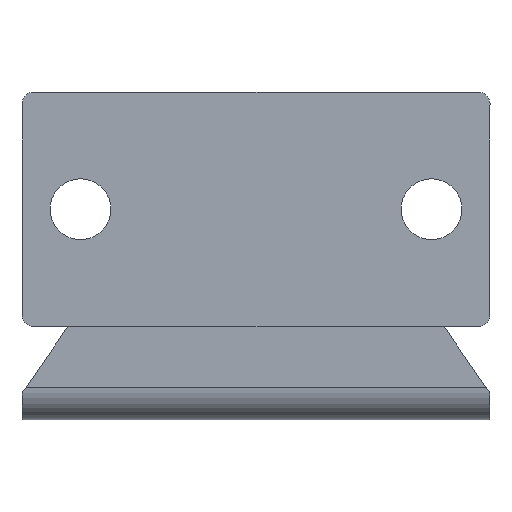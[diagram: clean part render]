
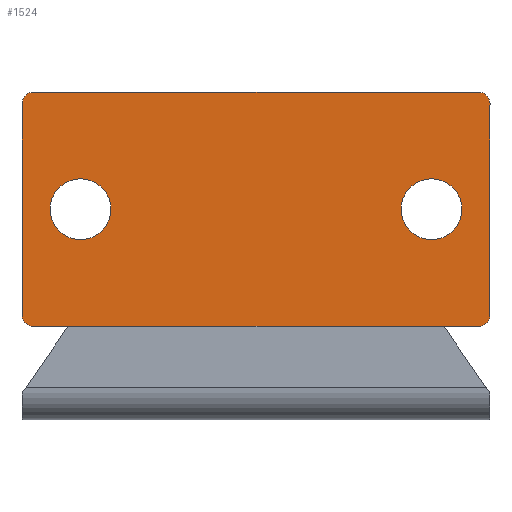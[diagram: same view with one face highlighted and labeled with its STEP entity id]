
A CAD part, left-side view. The second image highlights one B-rep face of the part: STEP entity #1524.
In plain terms, the highlighted planar face has unit normal (-1, 0, 0).
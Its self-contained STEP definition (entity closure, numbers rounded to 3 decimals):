
#8 = CARTESIAN_POINT ( 'NONE',  ( -288.518, -233.979, -9.839 ) ) ;
#20 = DIRECTION ( 'NONE',  ( 0., 1., 0. ) ) ;
#24 = EDGE_CURVE ( 'NONE', #2411, #799, #2379, .T. ) ;
#37 = ORIENTED_EDGE ( 'NONE', *, *, #349, .F. ) ;
#47 = EDGE_CURVE ( 'NONE', #342, #1061, #1392, .T. ) ;
#88 = ORIENTED_EDGE ( 'NONE', *, *, #250, .F. ) ;
#157 = DIRECTION ( 'NONE',  ( 0., 1., 0. ) ) ;
#171 = DIRECTION ( 'NONE',  ( 1., 0., 0. ) ) ;
#184 = CARTESIAN_POINT ( 'NONE',  ( -288.518, -227.379, -18.839 ) ) ;
#245 = AXIS2_PLACEMENT_3D ( 'NONE', #2076, #1854, #2286 ) ;
#250 = EDGE_CURVE ( 'NONE', #799, #1296, #678, .T. ) ;
#270 = AXIS2_PLACEMENT_3D ( 'NONE', #184, #171, #157 ) ;
#273 = CIRCLE ( 'NONE', #1569, 1. ) ;
#342 = VERTEX_POINT ( 'NONE', #711 ) ;
#343 = DIRECTION ( 'NONE',  ( 0., 1., 0. ) ) ;
#349 = EDGE_CURVE ( 'NONE', #705, #544, #1074, .T. ) ;
#386 = LINE ( 'NONE', #2306, #2401 ) ;
#424 = VERTEX_POINT ( 'NONE', #2063 ) ;
#428 = CARTESIAN_POINT ( 'NONE',  ( -288.518, -228.779, -9.839 ) ) ;
#433 = AXIS2_PLACEMENT_3D ( 'NONE', #784, #1332, #2281 ) ;
#445 = AXIS2_PLACEMENT_3D ( 'NONE', #1381, #1789, #2342 ) ;
#448 = DIRECTION ( 'NONE',  ( 1., 0., 0. ) ) ;
#517 = ORIENTED_EDGE ( 'NONE', *, *, #2242, .F. ) ;
#521 = AXIS2_PLACEMENT_3D ( 'NONE', #1289, #2073, #343 ) ;
#544 = VERTEX_POINT ( 'NONE', #2097 ) ;
#571 = EDGE_CURVE ( 'NONE', #926, #342, #1551, .T. ) ;
#583 = VERTEX_POINT ( 'NONE', #428 ) ;
#678 = CIRCLE ( 'NONE', #2150, 1. ) ;
#705 = VERTEX_POINT ( 'NONE', #2187 ) ;
#711 = CARTESIAN_POINT ( 'NONE',  ( -288.518, -226.379, -0.839 ) ) ;
#784 = CARTESIAN_POINT ( 'NONE',  ( -288.518, -227.379, -0.839 ) ) ;
#799 = VERTEX_POINT ( 'NONE', #2438 ) ;
#816 = CARTESIAN_POINT ( 'NONE',  ( -288.518, -265.379, -18.839 ) ) ;
#850 = EDGE_CURVE ( 'NONE', #544, #705, #1585, .T. ) ;
#871 = VECTOR ( 'NONE', #1066, 1000. ) ;
#924 = DIRECTION ( 'NONE',  ( -1., 0., 0. ) ) ;
#926 = VERTEX_POINT ( 'NONE', #1550 ) ;
#940 = CARTESIAN_POINT ( 'NONE',  ( -288.518, -265.379, -19.839 ) ) ;
#955 = VERTEX_POINT ( 'NONE', #8 ) ;
#963 = ORIENTED_EDGE ( 'NONE', *, *, #850, .F. ) ;
#966 = EDGE_CURVE ( 'NONE', #424, #2411, #273, .T. ) ;
#988 = DIRECTION ( 'NONE',  ( 0., 1., 0. ) ) ;
#1003 = DIRECTION ( 'NONE',  ( 0., 1., 0. ) ) ;
#1026 = VECTOR ( 'NONE', #1919, 1000. ) ;
#1043 = EDGE_CURVE ( 'NONE', #955, #583, #2223, .T. ) ;
#1061 = VERTEX_POINT ( 'NONE', #1599 ) ;
#1066 = DIRECTION ( 'NONE',  ( 0., 0., -1. ) ) ;
#1074 = CIRCLE ( 'NONE', #245, 2.6 ) ;
#1108 = ORIENTED_EDGE ( 'NONE', *, *, #1043, .F. ) ;
#1187 = ORIENTED_EDGE ( 'NONE', *, *, #24, .F. ) ;
#1221 = DIRECTION ( 'NONE',  ( -1., 0., 0. ) ) ;
#1289 = CARTESIAN_POINT ( 'NONE',  ( -288.518, -261.379, -9.839 ) ) ;
#1296 = VERTEX_POINT ( 'NONE', #940 ) ;
#1303 = DIRECTION ( 'NONE',  ( 0., 1., 0. ) ) ;
#1332 = DIRECTION ( 'NONE',  ( 1., 0., 0. ) ) ;
#1338 = CARTESIAN_POINT ( 'NONE',  ( -288.518, -226.379, -9.839 ) ) ;
#1381 = CARTESIAN_POINT ( 'NONE',  ( -288.518, -246.379, -9.839 ) ) ;
#1382 = AXIS2_PLACEMENT_3D ( 'NONE', #1708, #924, #1303 ) ;
#1392 = CIRCLE ( 'NONE', #433, 1. ) ;
#1399 = FACE_BOUND ( 'NONE', #1610, .T. ) ;
#1401 = ORIENTED_EDGE ( 'NONE', *, *, #1724, .F. ) ;
#1422 = PLANE ( 'NONE',  #445 ) ;
#1429 = CARTESIAN_POINT ( 'NONE',  ( -288.518, -266.379, -9.839 ) ) ;
#1444 = EDGE_LOOP ( 'NONE', ( #2289, #1961, #517, #88, #1187, #2088, #1401, #2338 ) ) ;
#1494 = CIRCLE ( 'NONE', #1382, 2.6 ) ;
#1524 = ADVANCED_FACE ( 'NONE', ( #2158, #2001, #1399 ), #1422, .F. ) ;
#1550 = CARTESIAN_POINT ( 'NONE',  ( -288.518, -226.379, -18.839 ) ) ;
#1551 = LINE ( 'NONE', #1338, #1026 ) ;
#1569 = AXIS2_PLACEMENT_3D ( 'NONE', #2094, #2296, #20 ) ;
#1585 = CIRCLE ( 'NONE', #521, 2.6 ) ;
#1589 = CARTESIAN_POINT ( 'NONE',  ( -288.518, -231.379, -9.839 ) ) ;
#1599 = CARTESIAN_POINT ( 'NONE',  ( -288.518, -227.379, 0.161 ) ) ;
#1610 = EDGE_LOOP ( 'NONE', ( #963, #37 ) ) ;
#1645 = EDGE_LOOP ( 'NONE', ( #1683, #1108 ) ) ;
#1683 = ORIENTED_EDGE ( 'NONE', *, *, #2082, .F. ) ;
#1708 = CARTESIAN_POINT ( 'NONE',  ( -288.518, -231.379, -9.839 ) ) ;
#1724 = EDGE_CURVE ( 'NONE', #1061, #424, #386, .T. ) ;
#1789 = DIRECTION ( 'NONE',  ( 1., 0., 0. ) ) ;
#1816 = AXIS2_PLACEMENT_3D ( 'NONE', #1589, #1221, #1003 ) ;
#1823 = VECTOR ( 'NONE', #1920, 1000. ) ;
#1854 = DIRECTION ( 'NONE',  ( -1., 0., 0. ) ) ;
#1877 = CARTESIAN_POINT ( 'NONE',  ( -288.518, -227.379, -19.839 ) ) ;
#1904 = DIRECTION ( 'NONE',  ( 0., -1., 0. ) ) ;
#1919 = DIRECTION ( 'NONE',  ( 0., 0., 1. ) ) ;
#1920 = DIRECTION ( 'NONE',  ( 0., 1., 0. ) ) ;
#1948 = LINE ( 'NONE', #1960, #1823 ) ;
#1960 = CARTESIAN_POINT ( 'NONE',  ( -288.518, -246.379, -19.839 ) ) ;
#1961 = ORIENTED_EDGE ( 'NONE', *, *, #2039, .F. ) ;
#1970 = CARTESIAN_POINT ( 'NONE',  ( -288.518, -266.379, -0.839 ) ) ;
#2001 = FACE_BOUND ( 'NONE', #1645, .T. ) ;
#2039 = EDGE_CURVE ( 'NONE', #2071, #926, #2377, .T. ) ;
#2063 = CARTESIAN_POINT ( 'NONE',  ( -288.518, -265.379, 0.161 ) ) ;
#2071 = VERTEX_POINT ( 'NONE', #1877 ) ;
#2073 = DIRECTION ( 'NONE',  ( -1., 0., 0. ) ) ;
#2076 = CARTESIAN_POINT ( 'NONE',  ( -288.518, -261.379, -9.839 ) ) ;
#2082 = EDGE_CURVE ( 'NONE', #583, #955, #1494, .T. ) ;
#2088 = ORIENTED_EDGE ( 'NONE', *, *, #966, .F. ) ;
#2094 = CARTESIAN_POINT ( 'NONE',  ( -288.518, -265.379, -0.839 ) ) ;
#2097 = CARTESIAN_POINT ( 'NONE',  ( -288.518, -258.779, -9.839 ) ) ;
#2150 = AXIS2_PLACEMENT_3D ( 'NONE', #816, #448, #988 ) ;
#2158 = FACE_OUTER_BOUND ( 'NONE', #1444, .T. ) ;
#2187 = CARTESIAN_POINT ( 'NONE',  ( -288.518, -263.979, -9.839 ) ) ;
#2223 = CIRCLE ( 'NONE', #1816, 2.6 ) ;
#2242 = EDGE_CURVE ( 'NONE', #1296, #2071, #1948, .T. ) ;
#2281 = DIRECTION ( 'NONE',  ( 0., 1., 0. ) ) ;
#2286 = DIRECTION ( 'NONE',  ( 0., 1., 0. ) ) ;
#2289 = ORIENTED_EDGE ( 'NONE', *, *, #571, .F. ) ;
#2296 = DIRECTION ( 'NONE',  ( 1., 0., 0. ) ) ;
#2306 = CARTESIAN_POINT ( 'NONE',  ( -288.518, -246.379, 0.161 ) ) ;
#2338 = ORIENTED_EDGE ( 'NONE', *, *, #47, .F. ) ;
#2342 = DIRECTION ( 'NONE',  ( 0., 0., -1. ) ) ;
#2377 = CIRCLE ( 'NONE', #270, 1. ) ;
#2379 = LINE ( 'NONE', #1429, #871 ) ;
#2401 = VECTOR ( 'NONE', #1904, 1000. ) ;
#2411 = VERTEX_POINT ( 'NONE', #1970 ) ;
#2438 = CARTESIAN_POINT ( 'NONE',  ( -288.518, -266.379, -18.839 ) ) ;
